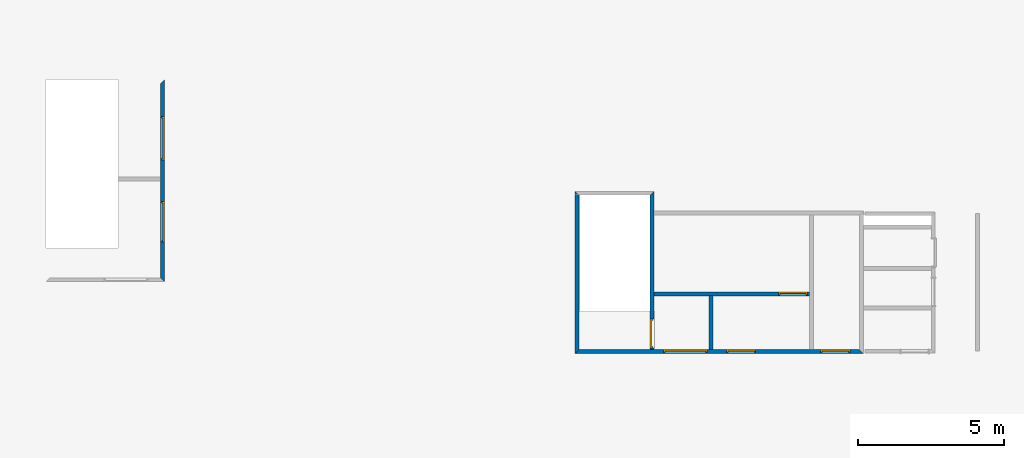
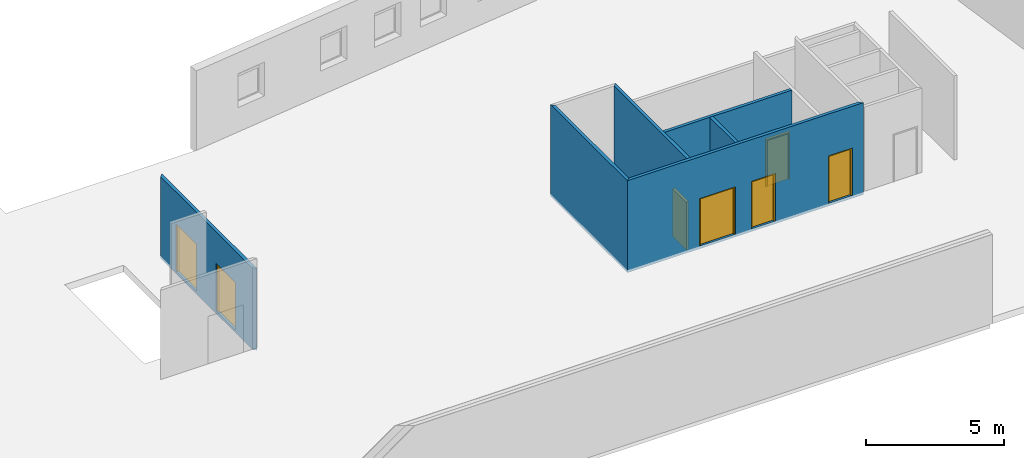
# One storey, part 2 of 9: 7 doors, 6 walls, 7 openings.
"""IFC2X3 building model written with IfcOpenShell, lengths in metres."""

from ifc_helpers import new_model, entity, si_unit, converted_unit, money_unit, direction, frame, origin_with_axes, origin_2d_with_axis, place, context, subcontext, project, spatial, polyline, rectangle, outline, extrude, faceted_brep, source, transform, mapped, material, material_list, layer, layer_set, layer_usage, type_object, element, fill, save


model = new_model("IFC2X3")

# Units and contexts
model_context = context("Model", 3, precision=1e-05, world=origin_with_axes(), true_north=direction((0.0, 1.0)))
body_context = subcontext(model_context, "Body", "Model", "MODEL_VIEW")
ifc_project = project(units=[si_unit("LENGTHUNIT", "METRE"), si_unit("AREAUNIT", "SQUARE_METRE"), si_unit("VOLUMEUNIT", "CUBIC_METRE"), converted_unit("PLANEANGLEUNIT", "DEGREE", entity("IfcPlaneAngleMeasure", 0.0174532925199), si_unit("PLANEANGLEUNIT", "RADIAN"), dimensions=[0, 0, 0, 0, 0, 0, 0]), si_unit("SOLIDANGLEUNIT", "STERADIAN"), money_unit("EUR"), converted_unit("TIMEUNIT", "Year", entity("IfcTimeMeasure", 31556926.0), si_unit("TIMEUNIT", "SECOND"), dimensions=[0, 0, 0, 0, 0, 0, 0]), si_unit("MASSUNIT", "GRAM"), si_unit("THERMODYNAMICTEMPERATUREUNIT", "DEGREE_CELSIUS"), si_unit("LUMINOUSINTENSITYUNIT", "LUMEN")], contexts=[model_context])

# Site, building, storey
site_placement = place(None, origin_with_axes())
site = spatial("IfcSite", under=ifc_project, at=site_placement, Name="Undefined", CompositionType="ELEMENT")
building_placement = place(site_placement, origin_with_axes())
building = spatial("IfcBuilding", under=site, at=building_placement, Name="Undefined", CompositionType="ELEMENT")
storey_placement = place(building_placement, frame((0.0, 0.0, 13.45), z_axis=(0.0, 0.0, 1.0), x_axis=(1.0, 0.0, 0.0)))
storey = spatial("IfcBuildingStorey", under=building, at=storey_placement, Name="R+2", CompositionType="ELEMENT", Elevation=13.45)

# Wall, openings, doors
ifc_material_1 = material(Name="Finition int - Enduit pl\x89tre")
ifc_layer_1 = layer(ifc_material_1, 0.015, ventilated="UNKNOWN")
ifc_material_2 = material(Name="Struct. - Parpaing b\x8eton")
ifc_layer_2 = layer(ifc_material_2, 0.1, ventilated="UNKNOWN")
ifc_layer_3 = layer(ifc_material_1, 0.015, ventilated="UNKNOWN")
ifc_layer_set = layer_set([ifc_layer_1, ifc_layer_2, ifc_layer_3], Name="0.0-Cloison: parpaing + pl\x89tre 2 faces copie")
ifc_layer_usage_1 = layer_usage(ifc_layer_set, "AXIS2", "NEGATIVE", 0.0)
wall_type = type_object("IfcWallType", Name="0.0-Cloison: parpaing + pl\x89tre 2 faces copie 130", PredefinedType="NOTDEFINED")
wall_1_placement = place(storey_placement, frame((33.0137357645, 18.4900686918, -0.12), z_axis=(0.0, 0.0, 1.0), x_axis=(0.0, -1.0, 0.0)))
wall_1 = element("IfcWallStandardCase", 1, at=wall_1_placement, inside=storey, type_object=wall_type, material=ifc_layer_usage_1, Name="Wall_Int_02", ObjectType="WALL", context=body_context, shape_type="SweptSolid", body=[
    extrude(outline(polyline([(0.065, -0.13), (6.71514607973, -0.13), (6.84514607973, 0.0), (-0.065, 0.0), (0.065, -0.13)])), origin_with_axes(), (0.0, 0.0, 1.0), 3.62),
])
opening_1_placement = place(wall_1_placement, frame((4.79308734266, 0.0, 0.12), z_axis=(0.0, 0.0, 1.0), x_axis=(1.0, 0.0, 0.0)))
opening_1 = element("IfcOpeningElement", 2, at=opening_1_placement, cuts=wall_1, Name="DOOR", context=body_context, shape_type="SweptSolid", body=[
    extrude(rectangle(XDim=1.39591901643, YDim=2.1, at=origin_2d_with_axis()), frame((0.0, 0.13, 1.05), z_axis=(0.0, -1.0, 0.0), x_axis=(1.0, 0.0, 0.0)), (0.0, 0.0, 1.0), 0.13),
    extrude(rectangle(XDim=1.39591901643, YDim=2.1, at=origin_2d_with_axis()), frame((0.0, -0.13, 1.05), z_axis=(0.0, 1.0, 0.0), x_axis=(1.0, 0.0, 0.0)), (0.0, 0.0, 1.0), 0.13),
])
opening_2_placement = place(wall_1_placement, frame((1.93098138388, 0.0, 0.12), z_axis=(0.0, 0.0, 1.0), x_axis=(1.0, 0.0, 0.0)))
opening_2 = element("IfcOpeningElement", 3, at=opening_2_placement, cuts=wall_1, Name="DOOR", context=body_context, shape_type="SweptSolid", body=[
    extrude(rectangle(XDim=1.5, YDim=2.1, at=origin_2d_with_axis()), frame((0.0, 0.13, 1.05), z_axis=(0.0, -1.0, 0.0), x_axis=(1.0, 0.0, 0.0)), (0.0, 0.0, 1.0), 0.13),
    extrude(rectangle(XDim=1.5, YDim=2.1, at=origin_2d_with_axis()), frame((0.0, -0.13, 1.05), z_axis=(0.0, 1.0, 0.0), x_axis=(1.0, 0.0, 0.0)), (0.0, 0.0, 1.0), 0.13),
])
ifc_material_3 = material(Name="Background Fill-International")
ifc_material_4 = material(Name="Air Space")
ifc_material_list = material_list([ifc_material_3, ifc_material_4])
door_style_1 = type_object("IfcDoorStyle", Name="IFC Porte double - Simple battant", ConstructionType="ALUMINIUM", OperationType="DOUBLE_DOOR_SINGLE_SWING", ParameterTakesPrecedence=True, Sizeable=False)
shared_shape_1 = source(origin_with_axes(), body_context, "Body", "Brep", [
    faceted_brep([(0.75, 0.0, 0.0), (0.75, -0.1, 0.0), (0.7, -0.1, 0.0), (0.7, 0.0, 0.0), (0.75, 0.0, 2.1), (0.75, -0.1, 2.1), (-0.75, -0.1, 2.1), (-0.75, -0.1, 0.0), (-0.7, -0.1, 0.0), (-0.7, -0.1, 2.05), (0.7, -0.1, 2.05), (0.7, 0.0, 2.05), (-0.7, 0.0, 2.05), (-0.7, 0.0, 0.0), (-0.75, 0.0, 0.0), (-0.75, 0.0, 2.1)], [[[0, 1, 2, 3]], [[4, 5, 1, 0]], [[1, 5, 6, 7, 8, 9, 10, 2]], [[3, 2, 10, 11]], [[0, 3, 11, 12, 13, 14, 15, 4]], [[15, 6, 5, 4]], [[14, 7, 6, 15]], [[13, 8, 7, 14]], [[12, 9, 8, 13]], [[11, 10, 9, 12]]]),
    faceted_brep([(-0.7, 0.0, 0.0), (-0.7, -0.04, 0.0), (-0.7, -0.04, 2.05), (-0.7, 0.0, 2.05), (0.0, 0.0, 0.0), (0.0, -0.04, 0.0), (0.0, -0.04, 2.05), (0.0, 0.0, 2.05)], [[[0, 1, 2, 3]], [[4, 5, 1, 0]], [[1, 5, 6, 2]], [[3, 2, 6, 7]], [[0, 3, 7, 4]], [[7, 6, 5, 4]]]),
    faceted_brep([(0.7, 0.0, 0.0), (0.7, -0.04, 0.0), (0.0, -0.04, 0.0), (0.0, 0.0, 0.0), (0.7, 0.0, 2.05), (0.7, -0.04, 2.05), (0.0, -0.04, 2.05), (0.0, 0.0, 2.05)], [[[0, 1, 2, 3]], [[4, 5, 1, 0]], [[1, 5, 6, 2]], [[3, 2, 6, 7]], [[0, 3, 7, 4]], [[7, 6, 5, 4]]]),
])
door_1_placement = place(opening_2_placement, frame((-0.75, 0.0, 0.0), z_axis=(0.0, 0.0, 1.0), x_axis=(1.0, 0.0, 0.0)))
door_1 = element("IfcDoor", 4, at=door_1_placement, inside=storey, type_object=door_style_1, material=ifc_material_list, Name="DOOR", ObjectType="DOOR", OverallHeight=2.1, OverallWidth=1.5, context=body_context, shape_type="MappedRepresentation", body=[
    mapped(shared_shape_1, transform((0.75, 0.0, 0.0))),
])
fill(opening_2, door_1)
shared_shape_2 = source(origin_with_axes(), body_context, "Body", "Brep", [
    faceted_brep([(0.697959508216, 0.0, 0.0), (0.697959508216, -0.1, 0.0), (0.647959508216, -0.1, 0.0), (0.647959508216, 0.0, 0.0), (0.697959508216, 0.0, 2.1), (0.697959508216, -0.1, 2.1), (-0.697959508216, -0.1, 2.1), (-0.697959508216, -0.1, 0.0), (-0.647959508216, -0.1, 0.0), (-0.647959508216, -0.1, 2.05), (0.647959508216, -0.1, 2.05), (0.647959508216, 0.0, 2.05), (-0.647959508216, 0.0, 2.05), (-0.647959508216, 0.0, 0.0), (-0.697959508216, 0.0, 0.0), (-0.697959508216, 0.0, 2.1)], [[[0, 1, 2, 3]], [[4, 5, 1, 0]], [[1, 5, 6, 7, 8, 9, 10, 2]], [[3, 2, 10, 11]], [[0, 3, 11, 12, 13, 14, 15, 4]], [[15, 6, 5, 4]], [[14, 7, 6, 15]], [[13, 8, 7, 14]], [[12, 9, 8, 13]], [[11, 10, 9, 12]]]),
    faceted_brep([(-0.647959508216, 0.0, 0.0), (-0.647959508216, -0.04, 0.0), (-0.647959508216, -0.04, 2.05), (-0.647959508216, 0.0, 2.05), (0.0, 0.0, 0.0), (0.0, -0.04, 0.0), (0.0, -0.04, 2.05), (0.0, 0.0, 2.05)], [[[0, 1, 2, 3]], [[4, 5, 1, 0]], [[1, 5, 6, 2]], [[3, 2, 6, 7]], [[0, 3, 7, 4]], [[7, 6, 5, 4]]]),
    faceted_brep([(0.647959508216, 0.0, 0.0), (0.647959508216, -0.04, 0.0), (0.0, -0.04, 0.0), (0.0, 0.0, 0.0), (0.647959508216, 0.0, 2.05), (0.647959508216, -0.04, 2.05), (0.0, -0.04, 2.05), (0.0, 0.0, 2.05)], [[[0, 1, 2, 3]], [[4, 5, 1, 0]], [[1, 5, 6, 2]], [[3, 2, 6, 7]], [[0, 3, 7, 4]], [[7, 6, 5, 4]]]),
])
door_2_placement = place(opening_1_placement, frame((-0.697959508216, 0.0, 0.0), z_axis=(0.0, 0.0, 1.0), x_axis=(1.0, 0.0, 0.0)))
door_2 = element("IfcDoor", 5, at=door_2_placement, inside=storey, type_object=door_style_1, material=ifc_material_list, Name="DOOR", ObjectType="DOOR", OverallHeight=2.1, OverallWidth=1.39592, context=body_context, shape_type="MappedRepresentation", body=[
    mapped(shared_shape_2, transform((0.697959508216, 0.0, 0.0))),
])
fill(opening_1, door_2)

# Wall, opening, door
ifc_layer_usage_2 = layer_usage(ifc_layer_set, "AXIS2", "POSITIVE", 0.0)
wall_2_placement = place(storey_placement, frame((49.6599999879, 14.6099652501, -0.12), z_axis=(0.0, 0.0, 1.0), x_axis=(0.0, -1.0, 0.0)))
wall_2 = element("IfcWallStandardCase", 6, at=wall_2_placement, inside=storey, type_object=wall_type, material=ifc_layer_usage_2, Name="Wall_Int_02", context=body_context, shape_type="SweptSolid", body=[
    extrude(outline(polyline([(6.39105685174e-06, 0.0), (5.29496528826, 0.0), (5.29496528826, 0.13), (-0.129993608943, 0.13), (6.39105685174e-06, 0.0)])), origin_with_axes(), (0.0, 0.0, 1.0), 4.07),
])
opening_3_placement = place(wall_2_placement, frame((4.73496525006, 0.0, 0.0), z_axis=(0.0, 0.0, 1.0), x_axis=(1.0, 0.0, 0.0)))
opening_3 = element("IfcOpeningElement", 7, at=opening_3_placement, cuts=wall_2, Name="DOOR_1000", context=body_context, shape_type="SweptSolid", body=[
    extrude(rectangle(XDim=1.0, YDim=2.1, at=origin_2d_with_axis()), frame((0.0, -0.13, 1.05), z_axis=(0.0, 1.0, 0.0), x_axis=(1.0, 0.0, 0.0)), (0.0, 0.0, 1.0), 0.13),
    extrude(rectangle(XDim=1.0, YDim=2.1, at=origin_2d_with_axis()), frame((0.0, 0.13, 1.05), z_axis=(0.0, -1.0, 0.0), x_axis=(1.0, 0.0, 0.0)), (0.0, 0.0, 1.0), 0.13),
])
door_style_2 = type_object("IfcDoorStyle", Name="IFC Porte - Simple battant", ConstructionType="NOTDEFINED", OperationType="SINGLE_SWING_LEFT", ParameterTakesPrecedence=True, Sizeable=False)
shared_shape_3 = source(origin_with_axes(), body_context, "Body", "Brep", [
    faceted_brep([(0.5, 0.0, 0.0), (0.5, -0.1, 0.0), (0.45, -0.1, 0.0), (0.45, 0.0, 0.0), (0.5, 0.0, 2.1), (0.5, -0.1, 2.1), (-0.5, -0.1, 2.1), (-0.5, -0.1, 0.0), (-0.45, -0.1, 0.0), (-0.45, -0.1, 2.05), (0.45, -0.1, 2.05), (0.45, 0.0, 2.05), (-0.45, 0.0, 2.05), (-0.45, 0.0, 0.0), (-0.5, 0.0, 0.0), (-0.5, 0.0, 2.1)], [[[0, 1, 2, 3]], [[4, 5, 1, 0]], [[1, 5, 6, 7, 8, 9, 10, 2]], [[3, 2, 10, 11]], [[0, 3, 11, 12, 13, 14, 15, 4]], [[15, 6, 5, 4]], [[14, 7, 6, 15]], [[13, 8, 7, 14]], [[12, 9, 8, 13]], [[11, 10, 9, 12]]]),
    faceted_brep([(-0.45, 0.0, 0.0), (-0.45, -0.04, 0.0), (-0.45, -0.04, 2.05), (-0.45, 0.0, 2.05), (0.45, 0.0, 0.0), (0.45, -0.04, 0.0), (0.45, -0.04, 2.05), (0.45, 0.0, 2.05)], [[[0, 1, 2, 3]], [[4, 5, 1, 0]], [[1, 5, 6, 2]], [[3, 2, 6, 7]], [[0, 3, 7, 4]], [[7, 6, 5, 4]]]),
])
door_3_placement = place(opening_3_placement, frame((0.5, 0.0, 0.0), z_axis=(0.0, 0.0, 1.0), x_axis=(-1.0, 0.0, 0.0)))
door_3 = element("IfcDoor", 8, at=door_3_placement, inside=storey, type_object=door_style_2, material=ifc_material_list, Name="DOOR_1000", ObjectType="DOOR", OverallHeight=2.1, OverallWidth=1.0, context=body_context, shape_type="MappedRepresentation", body=[
    mapped(shared_shape_3, transform((0.5, 0.0, 0.0))),
])
fill(opening_3, door_3)

ifc_layer_usage_3 = layer_usage(ifc_layer_set, "AXIS2", "POSITIVE", 0.0)
wall_3_placement = place(storey_placement, frame((49.6599999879, 11.1599999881, -0.12), z_axis=(0.0, 0.0, 1.0), x_axis=(1.0, 0.0, 0.0)))
wall_3 = element("IfcWallStandardCase", 9, at=wall_3_placement, inside=storey, type_object=wall_type, material=ifc_layer_usage_3, Name="Wall_Int_02", context=body_context, shape_type="SweptSolid", body=[
    extrude(outline(polyline([(0.13, 0.0), (5.45637656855, 0.0), (5.45637656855, 0.13), (0.13, 0.13), (0.13, 0.0)])), origin_with_axes(), (0.0, 0.0, 1.0), 4.07),
])
opening_4_placement = place(wall_3_placement, frame((4.89427702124, 0.0, 0.12), z_axis=(0.0, 0.0, 1.0), x_axis=(1.0, 0.0, 0.0)))
opening_4 = element("IfcOpeningElement", 10, at=opening_4_placement, cuts=wall_3, Name="DOOR_1000", context=body_context, shape_type="SweptSolid", body=[
    extrude(rectangle(XDim=1.0, YDim=2.1, at=origin_2d_with_axis()), frame((0.0, 0.26, 1.05), z_axis=(0.0, -1.0, 0.0), x_axis=(1.0, 0.0, 0.0)), (0.0, 0.0, 1.0), 0.13),
    extrude(rectangle(XDim=1.0, YDim=2.1, at=origin_2d_with_axis()), frame((0.0, 0.0, 1.05), z_axis=(0.0, 1.0, 0.0), x_axis=(1.0, 0.0, 0.0)), (0.0, 0.0, 1.0), 0.13),
])
door_style_3 = type_object("IfcDoorStyle", Name="IFC Porte - Simple battant", ConstructionType="NOTDEFINED", OperationType="SINGLE_SWING_LEFT", ParameterTakesPrecedence=True, Sizeable=False)
door_4_placement = place(opening_4_placement, frame((-0.5, 0.0, 0.0), z_axis=(0.0, 0.0, 1.0), x_axis=(1.0, 0.0, 0.0)))
door_4 = element("IfcDoor", 11, at=door_4_placement, inside=storey, type_object=door_style_3, material=ifc_material_list, Name="DOOR_1000", ObjectType="DOOR", OverallHeight=2.1, OverallWidth=1.0, context=body_context, shape_type="MappedRepresentation", body=[
    mapped(shared_shape_3, transform((0.5, 0.13, 0.0))),
])
fill(opening_4, door_4)

# Wall
ifc_layer_usage_4 = layer_usage(ifc_layer_set, "AXIS2", "POSITIVE", 0.0)
wall_4_placement = place(storey_placement, frame((51.6756910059, 11.175, -0.12), z_axis=(0.0, 0.0, 1.0), x_axis=(0.0, -1.0, 0.0)))
element("IfcWallStandardCase", 12, at=wall_4_placement, inside=storey, type_object=wall_type, material=ifc_layer_usage_4, Name="Wall_Int_05", context=body_context, shape_type="SweptSolid", body=[
    extrude(outline(polyline([(0.0, 0.0), (1.8600000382, 0.0), (1.8600000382, 0.13), (0.0, 0.13), (0.0, 0.0)])), origin_with_axes(), (0.0, 0.0, 1.0), 4.07),
])

# Wall, openings, doors
ifc_layer_usage_5 = layer_usage(ifc_layer_set, "AXIS2", "POSITIVE", 0.0)
wall_5_placement = place(storey_placement, frame((56.835, 9.3149999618, -0.12), z_axis=(0.0, 0.0, 1.0), x_axis=(-1.0, 0.0, 0.0)))
wall_5 = element("IfcWallStandardCase", 13, at=wall_5_placement, inside=storey, type_object=wall_type, material=ifc_layer_usage_5, Name="Wall_Int_02", context=body_context, shape_type="SweptSolid", body=[
    extrude(outline(polyline([(0.0, 0.0), (9.62, 0.0), (9.75, 0.13), (-0.13, 0.13), (0.0, 0.0)])), origin_with_axes(), (0.0, 0.0, 1.0), 4.07),
])
opening_5_placement = place(wall_5_placement, frame((5.97548555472, 0.0, 0.12), z_axis=(0.0, 0.0, 1.0), x_axis=(1.0, 0.0, 0.0)))
opening_5 = element("IfcOpeningElement", 14, at=opening_5_placement, cuts=wall_5, Name="DOOR", context=body_context, shape_type="SweptSolid", body=[
    extrude(rectangle(XDim=1.5, YDim=2.1, at=origin_2d_with_axis()), frame((0.0, -0.13, 1.05), z_axis=(0.0, 1.0, 0.0), x_axis=(1.0, 0.0, 0.0)), (0.0, 0.0, 1.0), 0.13),
    extrude(rectangle(XDim=1.5, YDim=2.1, at=origin_2d_with_axis()), frame((0.0, 0.13, 1.05), z_axis=(0.0, -1.0, 0.0), x_axis=(1.0, 0.0, 0.0)), (0.0, 0.0, 1.0), 0.13),
])
opening_6_placement = place(wall_5_placement, frame((4.05960224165, 0.0, 0.12), z_axis=(0.0, 0.0, 1.0), x_axis=(1.0, 0.0, 0.0)))
opening_6 = element("IfcOpeningElement", 15, at=opening_6_placement, cuts=wall_5, Name="DOOR_1000", context=body_context, shape_type="SweptSolid", body=[
    extrude(rectangle(XDim=1.0, YDim=2.1, at=origin_2d_with_axis()), frame((0.0, -0.13, 1.05), z_axis=(0.0, 1.0, 0.0), x_axis=(1.0, 0.0, 0.0)), (0.0, 0.0, 1.0), 0.13),
    extrude(rectangle(XDim=1.0, YDim=2.1, at=origin_2d_with_axis()), frame((0.0, 0.13, 1.05), z_axis=(0.0, -1.0, 0.0), x_axis=(1.0, 0.0, 0.0)), (0.0, 0.0, 1.0), 0.13),
])
opening_7_placement = place(wall_5_placement, frame((0.834117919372, 0.0, 0.12), z_axis=(0.0, 0.0, 1.0), x_axis=(1.0, 0.0, 0.0)))
opening_7 = element("IfcOpeningElement", 16, at=opening_7_placement, cuts=wall_5, Name="DOOR_1000", context=body_context, shape_type="SweptSolid", body=[
    extrude(rectangle(XDim=1.0, YDim=2.1, at=origin_2d_with_axis()), frame((0.0, -0.13, 1.05), z_axis=(0.0, 1.0, 0.0), x_axis=(1.0, 0.0, 0.0)), (0.0, 0.0, 1.0), 0.13),
    extrude(rectangle(XDim=1.0, YDim=2.1, at=origin_2d_with_axis()), frame((0.0, 0.13, 1.05), z_axis=(0.0, -1.0, 0.0), x_axis=(1.0, 0.0, 0.0)), (0.0, 0.0, 1.0), 0.13),
])
door_5_placement = place(opening_6_placement, frame((0.5, 0.0, 0.0), z_axis=(0.0, 0.0, 1.0), x_axis=(-1.0, 0.0, 0.0)))
door_5 = element("IfcDoor", 17, at=door_5_placement, inside=storey, type_object=door_style_2, material=ifc_material_list, Name="DOOR_1000", ObjectType="DOOR", OverallHeight=2.1, OverallWidth=1.0, context=body_context, shape_type="MappedRepresentation", body=[
    mapped(shared_shape_3, transform((0.5, 0.0, 0.0))),
])
fill(opening_6, door_5)
door_6_placement = place(opening_7_placement, frame((0.5, 0.0, 0.0), z_axis=(0.0, 0.0, 1.0), x_axis=(-1.0, 0.0, 0.0)))
door_6 = element("IfcDoor", 18, at=door_6_placement, inside=storey, type_object=door_style_2, material=ifc_material_list, Name="DOOR_1000", ObjectType="DOOR", OverallHeight=2.1, OverallWidth=1.0, context=body_context, shape_type="MappedRepresentation", body=[
    mapped(shared_shape_3, transform((0.5, 0.0, 0.0))),
])
fill(opening_7, door_6)
door_style_4 = type_object("IfcDoorStyle", Name="IFC Porte double - Simple battant", ConstructionType="ALUMINIUM", OperationType="DOUBLE_DOOR_SINGLE_SWING", ParameterTakesPrecedence=True, Sizeable=False)
shared_shape_4 = source(origin_with_axes(), body_context, "Body", "Brep", [
    faceted_brep([(0.75, 0.0, 0.0), (0.75, -0.1, 0.0), (0.7, -0.1, 0.0), (0.7, 0.0, 0.0), (0.75, 0.0, 2.1), (0.75, -0.1, 2.1), (-0.75, -0.1, 2.1), (-0.75, -0.1, 0.0), (-0.7, -0.1, 0.0), (-0.7, -0.1, 2.05), (0.7, -0.1, 2.05), (0.7, 0.0, 2.05), (-0.7, 0.0, 2.05), (-0.7, 0.0, 0.0), (-0.75, 0.0, 0.0), (-0.75, 0.0, 2.1)], [[[0, 1, 2, 3]], [[4, 5, 1, 0]], [[1, 5, 6, 7, 8, 9, 10, 2]], [[3, 2, 10, 11]], [[0, 3, 11, 12, 13, 14, 15, 4]], [[15, 6, 5, 4]], [[14, 7, 6, 15]], [[13, 8, 7, 14]], [[12, 9, 8, 13]], [[11, 10, 9, 12]]]),
    faceted_brep([(-0.7, 0.0, 0.0), (-0.7, -0.04, 0.0), (-0.7, -0.04, 2.05), (-0.7, 0.0, 2.05), (0.42, 0.0, 0.0), (0.42, -0.04, 0.0), (0.42, -0.04, 2.05), (0.42, 0.0, 2.05)], [[[0, 1, 2, 3]], [[4, 5, 1, 0]], [[1, 5, 6, 2]], [[3, 2, 6, 7]], [[0, 3, 7, 4]], [[7, 6, 5, 4]]]),
    faceted_brep([(0.7, 0.0, 0.0), (0.7, -0.04, 0.0), (0.42, -0.04, 0.0), (0.42, 0.0, 0.0), (0.7, 0.0, 2.05), (0.7, -0.04, 2.05), (0.42, -0.04, 2.05), (0.42, 0.0, 2.05)], [[[0, 1, 2, 3]], [[4, 5, 1, 0]], [[1, 5, 6, 2]], [[3, 2, 6, 7]], [[0, 3, 7, 4]], [[7, 6, 5, 4]]]),
])
door_7_placement = place(opening_5_placement, frame((0.75, 0.0, 0.0), z_axis=(0.0, 0.0, 1.0), x_axis=(-1.0, 0.0, 0.0)))
door_7 = element("IfcDoor", 19, at=door_7_placement, inside=storey, type_object=door_style_4, material=ifc_material_list, Name="DOOR", ObjectType="DOOR", OverallHeight=2.1, OverallWidth=1.5, context=body_context, shape_type="MappedRepresentation", body=[
    mapped(shared_shape_4, transform((0.75, 0.0, 0.0))),
])
fill(opening_5, door_7)

# Wall
ifc_layer_usage_6 = layer_usage(ifc_layer_set, "AXIS2", "POSITIVE", 0.0)
wall_6_placement = place(storey_placement, frame((47.085, 14.609958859, -0.12), z_axis=(0.0, 0.0, 1.0), x_axis=(0.0, -1.0, 0.0)))
element("IfcWallStandardCase", 20, at=wall_6_placement, inside=storey, type_object=wall_type, material=ifc_layer_usage_6, Name="Wall_Int_02", context=body_context, shape_type="SweptSolid", body=[
    extrude(outline(polyline([(-0.13, 0.0), (5.4249588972, 0.0), (5.2949588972, 0.13), (0.0, 0.13), (-0.13, 0.0)])), origin_with_axes(), (0.0, 0.0, 1.0), 4.07),
])

save(model, "model.ifc")
